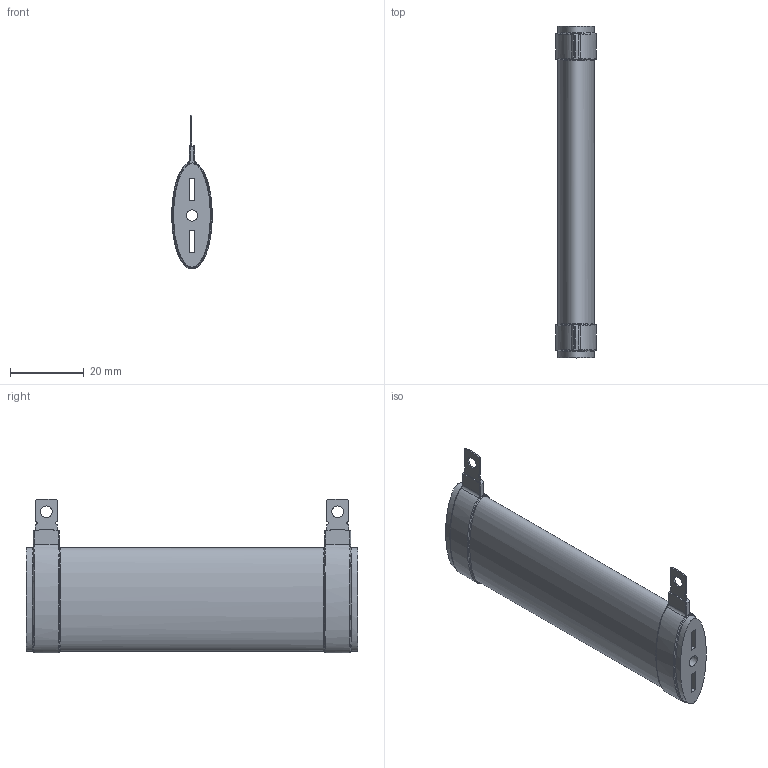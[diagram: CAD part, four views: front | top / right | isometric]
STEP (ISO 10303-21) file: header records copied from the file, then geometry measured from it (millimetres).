
FILE_DESCRIPTION(/* description */ (''),/* implementation_level */ '2;1');
FILE_NAME(/* name */ 'C:\_Vault\Dati\CATALOGO\RCE\RCE 53.stp',/* time_stamp */ '2014-03-19T17:01:21+01:00',/* author */ ('stefano'),/* organization */ (''),/* preprocessor_version */ 'ST-DEVELOPER v15.2',/* originating_system */ 'Autodesk Inventor 2014',/* authorisation */ '');
FILE_SCHEMA (('AUTOMOTIVE_DESIGN { 1 0 10303 214 3 1 1 }'));
Length unit declared in the file: millimetre
Products named in the file (1): RCE 53
Bounding box: 11 x 90 x 41.71 mm (x, y, z)
Volume: 17989.6 mm3; surface area: 10097 mm2
Topology: 1 solids, 1 shells, 84 faces, 222 edges, 142 vertices
Faces by surface type: plane 30, cylinder 23, bspline 23, torus 8
Full cylindrical faces by diameter (mm): 3.1 x1, 3.2 x2
Entity records: 4364 total; most frequent: CARTESIAN_POINT 2272, ORIENTED_EDGE 438, DIRECTION 356, EDGE_CURVE 219, VERTEX_POINT 142, AXIS2_PLACEMENT_3D 136, EDGE_LOOP 99, STYLED_ITEM 85
